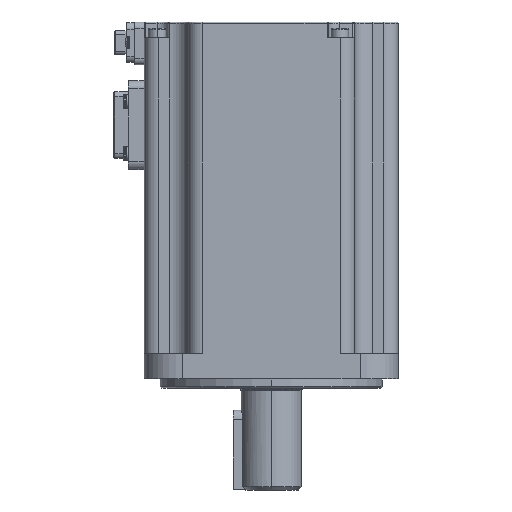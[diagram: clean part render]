
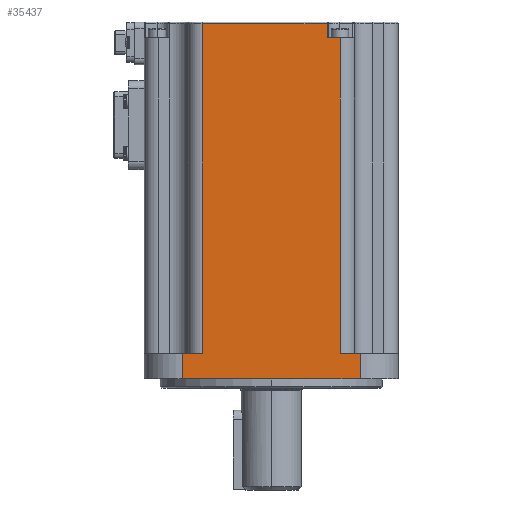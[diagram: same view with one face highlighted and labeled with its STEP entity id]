
A CAD part, left-side view. The second image highlights one B-rep face of the part: STEP entity #35437.
In plain terms, the highlighted planar face has unit normal (-1, 0, 0).
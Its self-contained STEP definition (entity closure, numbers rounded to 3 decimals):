
#647 = PLANE ( 'NONE',  #5694 ) ;
#2420 = VECTOR ( 'NONE', #25012, 1000. ) ;
#2987 = ORIENTED_EDGE ( 'NONE', *, *, #11773, .F. ) ;
#4196 = VERTEX_POINT ( 'NONE', #16794 ) ;
#4748 = VECTOR ( 'NONE', #54924, 1000. ) ;
#4833 = LINE ( 'NONE', #26880, #36157 ) ;
#5090 = CARTESIAN_POINT ( 'NONE',  ( -50.568, 39.728, -30.75 ) ) ;
#5201 = VERTEX_POINT ( 'NONE', #15092 ) ;
#5665 = ORIENTED_EDGE ( 'NONE', *, *, #34574, .T. ) ;
#5694 = AXIS2_PLACEMENT_3D ( 'NONE', #22682, #13525, #26983 ) ;
#5952 = VERTEX_POINT ( 'NONE', #45248 ) ;
#7005 = EDGE_CURVE ( 'NONE', #21692, #46591, #41906, .T. ) ;
#7312 = DIRECTION ( 'NONE',  ( 0., -1., 0. ) ) ;
#7375 = CARTESIAN_POINT ( 'NONE',  ( -50.568, -17.903, 73.75 ) ) ;
#7431 = EDGE_LOOP ( 'NONE', ( #53941, #2987, #41211, #43546, #5665, #27972, #37368, #28262, #45419, #31476 ) ) ;
#8669 = CARTESIAN_POINT ( 'NONE',  ( -50.568, -22.022, 68.75 ) ) ;
#9800 = FACE_OUTER_BOUND ( 'NONE', #7431, .T. ) ;
#11103 = DIRECTION ( 'NONE',  ( 0., 0., 1. ) ) ;
#11477 = EDGE_CURVE ( 'NONE', #5952, #20477, #55803, .T. ) ;
#11773 = EDGE_CURVE ( 'NONE', #12096, #12990, #51427, .T. ) ;
#11940 = CARTESIAN_POINT ( 'NONE',  ( -50.568, 27.728, -30.75 ) ) ;
#12096 = VERTEX_POINT ( 'NONE', #33845 ) ;
#12990 = VERTEX_POINT ( 'NONE', #53225 ) ;
#13525 = DIRECTION ( 'NONE',  ( 1., 0., 0. ) ) ;
#14666 = EDGE_CURVE ( 'NONE', #46591, #12990, #35401, .T. ) ;
#15092 = CARTESIAN_POINT ( 'NONE',  ( -50.568, 27.728, -38.75 ) ) ;
#15953 = VECTOR ( 'NONE', #7312, 1000. ) ;
#16357 = VERTEX_POINT ( 'NONE', #8669 ) ;
#16608 = LINE ( 'NONE', #20899, #39427 ) ;
#16794 = CARTESIAN_POINT ( 'NONE',  ( -50.568, -28.272, -38.75 ) ) ;
#18236 = EDGE_CURVE ( 'NONE', #49574, #21692, #19987, .T. ) ;
#18493 = DIRECTION ( 'NONE',  ( 0., 0., -1. ) ) ;
#19987 = LINE ( 'NONE', #7375, #32313 ) ;
#20324 = DIRECTION ( 'NONE',  ( 0., 0., 1. ) ) ;
#20477 = VERTEX_POINT ( 'NONE', #37301 ) ;
#20899 = CARTESIAN_POINT ( 'NONE',  ( -50.568, -28.272, -30.75 ) ) ;
#21443 = EDGE_CURVE ( 'NONE', #12096, #5201, #41746, .T. ) ;
#21692 = VERTEX_POINT ( 'NONE', #23084 ) ;
#22682 = CARTESIAN_POINT ( 'NONE',  ( -50.568, 21.478, 58.75 ) ) ;
#23084 = CARTESIAN_POINT ( 'NONE',  ( -50.568, -17.903, 73.25 ) ) ;
#24228 = LINE ( 'NONE', #50590, #15953 ) ;
#24810 = LINE ( 'NONE', #29967, #48016 ) ;
#25012 = DIRECTION ( 'NONE',  ( 0., 1., 0. ) ) ;
#26880 = CARTESIAN_POINT ( 'NONE',  ( -50.568, 39.728, -38.75 ) ) ;
#26983 = DIRECTION ( 'NONE',  ( 0., -1., 0. ) ) ;
#27972 = ORIENTED_EDGE ( 'NONE', *, *, #11477, .F. ) ;
#28262 = ORIENTED_EDGE ( 'NONE', *, *, #29614, .F. ) ;
#29084 = DIRECTION ( 'NONE',  ( 0., -1., 0. ) ) ;
#29614 = EDGE_CURVE ( 'NONE', #49574, #16357, #24228, .T. ) ;
#29881 = CARTESIAN_POINT ( 'NONE',  ( -50.568, 21.478, 73.25 ) ) ;
#29967 = CARTESIAN_POINT ( 'NONE',  ( -50.568, -22.022, 58.75 ) ) ;
#31476 = ORIENTED_EDGE ( 'NONE', *, *, #7005, .T. ) ;
#32015 = VECTOR ( 'NONE', #29084, 1000. ) ;
#32313 = VECTOR ( 'NONE', #11103, 1000. ) ;
#32905 = VECTOR ( 'NONE', #35992, 1000. ) ;
#33845 = CARTESIAN_POINT ( 'NONE',  ( -50.568, 27.728, -30.75 ) ) ;
#34574 = EDGE_CURVE ( 'NONE', #4196, #20477, #16608, .T. ) ;
#35401 = LINE ( 'NONE', #52889, #39451 ) ;
#35437 = ADVANCED_FACE ( 'NONE', ( #9800 ), #647, .F. ) ;
#35992 = DIRECTION ( 'NONE',  ( 0., -1., 0. ) ) ;
#36157 = VECTOR ( 'NONE', #56697, 1000. ) ;
#37301 = CARTESIAN_POINT ( 'NONE',  ( -50.568, -28.272, -30.75 ) ) ;
#37368 = ORIENTED_EDGE ( 'NONE', *, *, #55788, .F. ) ;
#38930 = EDGE_CURVE ( 'NONE', #4196, #5201, #4833, .T. ) ;
#39427 = VECTOR ( 'NONE', #20324, 1000. ) ;
#39451 = VECTOR ( 'NONE', #18493, 1000. ) ;
#41211 = ORIENTED_EDGE ( 'NONE', *, *, #21443, .T. ) ;
#41746 = LINE ( 'NONE', #11940, #4748 ) ;
#41906 = LINE ( 'NONE', #29881, #2420 ) ;
#43239 = CARTESIAN_POINT ( 'NONE',  ( -50.568, -17.903, 68.75 ) ) ;
#43546 = ORIENTED_EDGE ( 'NONE', *, *, #38930, .F. ) ;
#45248 = CARTESIAN_POINT ( 'NONE',  ( -50.568, -22.022, -30.75 ) ) ;
#45419 = ORIENTED_EDGE ( 'NONE', *, *, #18236, .T. ) ;
#46467 = CARTESIAN_POINT ( 'NONE',  ( -50.568, 21.478, 73.25 ) ) ;
#46591 = VERTEX_POINT ( 'NONE', #46467 ) ;
#47192 = DIRECTION ( 'NONE',  ( 0., 0., -1. ) ) ;
#47432 = CARTESIAN_POINT ( 'NONE',  ( -50.568, 39.728, -30.75 ) ) ;
#48016 = VECTOR ( 'NONE', #47192, 1000. ) ;
#49574 = VERTEX_POINT ( 'NONE', #43239 ) ;
#50590 = CARTESIAN_POINT ( 'NONE',  ( -50.568, -18.403, 68.75 ) ) ;
#51427 = LINE ( 'NONE', #47432, #32015 ) ;
#52889 = CARTESIAN_POINT ( 'NONE',  ( -50.568, 21.478, 58.75 ) ) ;
#53225 = CARTESIAN_POINT ( 'NONE',  ( -50.568, 21.478, -30.75 ) ) ;
#53941 = ORIENTED_EDGE ( 'NONE', *, *, #14666, .T. ) ;
#54924 = DIRECTION ( 'NONE',  ( 0., 0., -1. ) ) ;
#55788 = EDGE_CURVE ( 'NONE', #16357, #5952, #24810, .T. ) ;
#55803 = LINE ( 'NONE', #5090, #32905 ) ;
#56697 = DIRECTION ( 'NONE',  ( 0., 1., 0. ) ) ;
